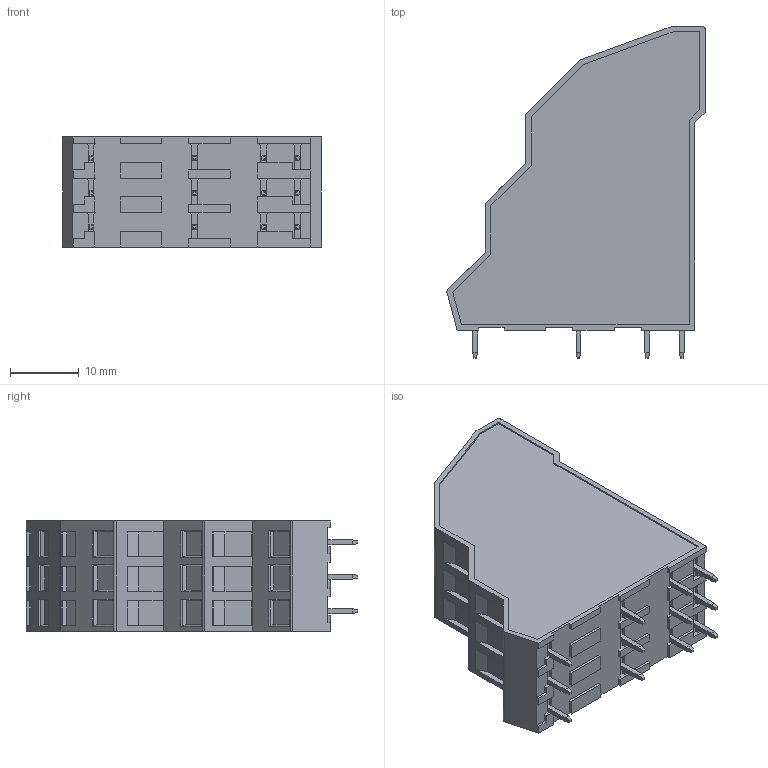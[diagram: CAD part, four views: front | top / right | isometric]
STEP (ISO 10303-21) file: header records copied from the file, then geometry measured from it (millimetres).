
FILE_DESCRIPTION((''),'2;1');
FILE_NAME('HS0300800000G_SW0001','2019-06-05T',('zhenbing.lai'),(''),'CREO PARAMETRIC BY PTC INC, 2016260','CREO PARAMETRIC BY PTC INC, 2016260','');
FILE_SCHEMA(('CONFIG_CONTROL_DESIGN'));
Length unit declared in the file: millimetre
Products named in the file (1): HS0300800000G_SW0001
Bounding box: 37.5 x 48.2 x 16 mm (x, y, z)
Volume: 17928.3 mm3; surface area: 5291.4 mm2
Topology: 1 solids, 10 shells, 515 faces, 1341 edges, 877 vertices
Faces by surface type: plane 480, cylinder 32, cone 3
Entity records: 15493 total; most frequent: CARTESIAN_POINT 2793, ORIENTED_EDGE 2682, DIRECTION 2434, EDGE_CURVE 1341, VECTOR 1244, LINE 1244, VERTEX_POINT 877, AXIS2_PLACEMENT_3D 595
